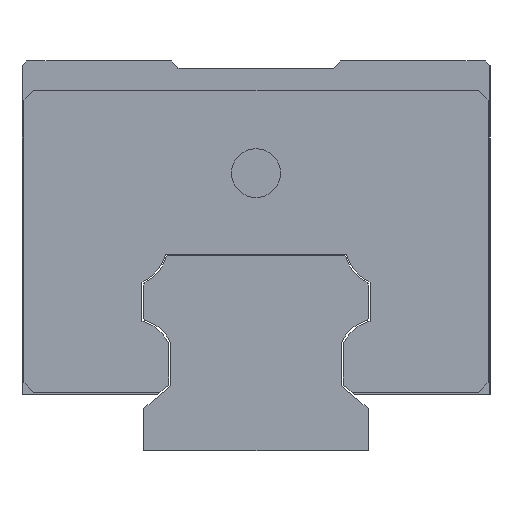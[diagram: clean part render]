
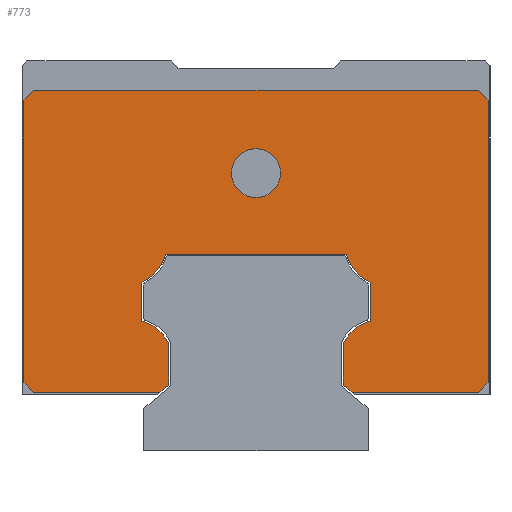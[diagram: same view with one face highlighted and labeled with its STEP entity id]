
A CAD part, left-side view. The second image highlights one B-rep face of the part: STEP entity #773.
In plain terms, the highlighted planar face has unit normal (-1, 0, 0).
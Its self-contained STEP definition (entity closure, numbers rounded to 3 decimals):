
#588=FACE_BOUND('',#1059,.T.);
#589=FACE_BOUND('',#1060,.T.);
#773=ADVANCED_FACE('',(#588,#589),#899,.F.);
#899=PLANE('',#2773);
#1059=EDGE_LOOP('',(#1426));
#1060=EDGE_LOOP('',(#1427,#1428,#1429,#1430,#1431,#1432,#1433,#1434,#1435,
#1436,#1437,#1438,#1439,#1440,#1441,#1442,#1443,#1444,#1445,#1446));
#1240=CIRCLE('',#2757,4.169);
#1241=CIRCLE('',#2760,4.169);
#1242=CIRCLE('',#2763,4.169);
#1243=CIRCLE('',#2766,4.169);
#1244=CIRCLE('',#2772,2.5);
#1426=ORIENTED_EDGE('',*,*,#2175,.F.);
#1427=ORIENTED_EDGE('',*,*,#2173,.F.);
#1428=ORIENTED_EDGE('',*,*,#2176,.T.);
#1429=ORIENTED_EDGE('',*,*,#2168,.F.);
#1430=ORIENTED_EDGE('',*,*,#2167,.F.);
#1431=ORIENTED_EDGE('',*,*,#2160,.F.);
#1432=ORIENTED_EDGE('',*,*,#2154,.F.);
#1433=ORIENTED_EDGE('',*,*,#2153,.F.);
#1434=ORIENTED_EDGE('',*,*,#2145,.F.);
#1435=ORIENTED_EDGE('',*,*,#2144,.F.);
#1436=ORIENTED_EDGE('',*,*,#2136,.F.);
#1437=ORIENTED_EDGE('',*,*,#2135,.F.);
#1438=ORIENTED_EDGE('',*,*,#2127,.F.);
#1439=ORIENTED_EDGE('',*,*,#2125,.F.);
#1440=ORIENTED_EDGE('',*,*,#2120,.F.);
#1441=ORIENTED_EDGE('',*,*,#2112,.F.);
#1442=ORIENTED_EDGE('',*,*,#2177,.T.);
#1443=ORIENTED_EDGE('',*,*,#2108,.F.);
#1444=ORIENTED_EDGE('',*,*,#2178,.T.);
#1445=ORIENTED_EDGE('',*,*,#2104,.F.);
#1446=ORIENTED_EDGE('',*,*,#2179,.T.);
#1900=VERTEX_POINT('',#3629);
#1901=VERTEX_POINT('',#3631);
#1904=VERTEX_POINT('',#3638);
#1905=VERTEX_POINT('',#3640);
#1908=VERTEX_POINT('',#3647);
#1909=VERTEX_POINT('',#3649);
#1910=VERTEX_POINT('',#3653);
#1916=VERTEX_POINT('',#3667);
#1921=VERTEX_POINT('',#3679);
#1922=VERTEX_POINT('',#3683);
#1927=VERTEX_POINT('',#3696);
#1928=VERTEX_POINT('',#3700);
#1933=VERTEX_POINT('',#3713);
#1934=VERTEX_POINT('',#3717);
#1939=VERTEX_POINT('',#3730);
#1940=VERTEX_POINT('',#3734);
#1944=VERTEX_POINT('',#3744);
#1950=VERTEX_POINT('',#3758);
#1954=VERTEX_POINT('',#3767);
#1955=VERTEX_POINT('',#3769);
#1956=VERTEX_POINT('',#3773);
#2104=EDGE_CURVE('',#1900,#1901,#2381,.T.);
#2108=EDGE_CURVE('',#1904,#1905,#2385,.T.);
#2112=EDGE_CURVE('',#1908,#1909,#2389,.T.);
#2120=EDGE_CURVE('',#1909,#1910,#2397,.T.);
#2125=EDGE_CURVE('',#1910,#1916,#2402,.T.);
#2127=EDGE_CURVE('',#1916,#1921,#1240,.T.);
#2135=EDGE_CURVE('',#1921,#1922,#2410,.T.);
#2136=EDGE_CURVE('',#1922,#1927,#1241,.T.);
#2144=EDGE_CURVE('',#1927,#1928,#2418,.T.);
#2145=EDGE_CURVE('',#1928,#1933,#1242,.T.);
#2153=EDGE_CURVE('',#1933,#1934,#2426,.T.);
#2154=EDGE_CURVE('',#1934,#1939,#1243,.T.);
#2160=EDGE_CURVE('',#1939,#1940,#2432,.T.);
#2167=EDGE_CURVE('',#1940,#1944,#2439,.T.);
#2168=EDGE_CURVE('',#1944,#1950,#2440,.T.);
#2173=EDGE_CURVE('',#1954,#1955,#2445,.T.);
#2175=EDGE_CURVE('',#1956,#1956,#1244,.T.);
#2176=EDGE_CURVE('',#1954,#1950,#2447,.T.);
#2177=EDGE_CURVE('',#1908,#1905,#2448,.T.);
#2178=EDGE_CURVE('',#1904,#1901,#2449,.T.);
#2179=EDGE_CURVE('',#1900,#1955,#2450,.T.);
#2381=LINE('',#3630,#2565);
#2385=LINE('',#3639,#2569);
#2389=LINE('',#3648,#2573);
#2397=LINE('',#3664,#2581);
#2402=LINE('',#3674,#2586);
#2410=LINE('',#3693,#2594);
#2418=LINE('',#3710,#2602);
#2426=LINE('',#3727,#2610);
#2432=LINE('',#3741,#2616);
#2439=LINE('',#3755,#2623);
#2440=LINE('',#3757,#2624);
#2445=LINE('',#3768,#2629);
#2447=LINE('',#3774,#2631);
#2448=LINE('',#3775,#2632);
#2449=LINE('',#3776,#2633);
#2450=LINE('',#3777,#2634);
#2565=VECTOR('',#2990,1.);
#2569=VECTOR('',#2996,1.);
#2573=VECTOR('',#3002,1.);
#2581=VECTOR('',#3012,1.);
#2586=VECTOR('',#3019,1.);
#2594=VECTOR('',#3035,1.);
#2602=VECTOR('',#3049,1.);
#2610=VECTOR('',#3063,1.);
#2616=VECTOR('',#3075,1.);
#2623=VECTOR('',#3084,1.);
#2624=VECTOR('',#3087,1.);
#2629=VECTOR('',#3094,1.);
#2631=VECTOR('',#3100,1.);
#2632=VECTOR('',#3101,1.);
#2633=VECTOR('',#3102,1.);
#2634=VECTOR('',#3103,1.);
#2757=AXIS2_PLACEMENT_3D('',#3678,#3024,#3025);
#2760=AXIS2_PLACEMENT_3D('',#3695,#3038,#3039);
#2763=AXIS2_PLACEMENT_3D('',#3712,#3052,#3053);
#2766=AXIS2_PLACEMENT_3D('',#3729,#3066,#3067);
#2772=AXIS2_PLACEMENT_3D('',#3772,#3098,#3099);
#2773=AXIS2_PLACEMENT_3D('',#3778,#3104,#3105);
#2990=DIRECTION('',(0.,-1.,0.));
#2996=DIRECTION('',(0.,0.,-1.));
#3002=DIRECTION('',(0.,1.,0.));
#3012=DIRECTION('',(0.,0.766,0.643));
#3019=DIRECTION('',(0.,0.,1.));
#3024=DIRECTION('',(1.,0.,0.));
#3025=DIRECTION('',(0.,1.,0.));
#3035=DIRECTION('',(0.,0.,1.));
#3038=DIRECTION('',(1.,0.,0.));
#3039=DIRECTION('',(0.,1.,0.));
#3049=DIRECTION('',(0.,1.,0.));
#3052=DIRECTION('',(1.,0.,0.));
#3053=DIRECTION('',(0.,-1.,0.));
#3063=DIRECTION('',(0.,0.,-1.));
#3066=DIRECTION('',(1.,0.,0.));
#3067=DIRECTION('',(0.,-1.,0.));
#3075=DIRECTION('',(0.,0.,-1.));
#3084=DIRECTION('',(0.,0.766,-0.643));
#3087=DIRECTION('',(0.,1.,0.));
#3094=DIRECTION('',(0.,0.,1.));
#3098=DIRECTION('',(-1.,0.,0.));
#3099=DIRECTION('',(0.,1.,0.));
#3100=DIRECTION('',(0.,-0.707,-0.707));
#3101=DIRECTION('',(0.,-0.707,0.707));
#3102=DIRECTION('',(0.,0.707,0.707));
#3103=DIRECTION('',(0.,0.707,-0.707));
#3104=DIRECTION('',(1.,0.,0.));
#3105=DIRECTION('',(0.,0.,-1.));
#3629=CARTESIAN_POINT('',(-55.,22.8,37.));
#3630=CARTESIAN_POINT('',(-55.,23.8,37.));
#3631=CARTESIAN_POINT('',(-55.,-22.8,37.));
#3638=CARTESIAN_POINT('',(-55.,-23.8,36.));
#3639=CARTESIAN_POINT('',(-55.,-23.8,37.));
#3640=CARTESIAN_POINT('',(-55.,-23.8,7.));
#3647=CARTESIAN_POINT('',(-55.,-22.8,6.));
#3648=CARTESIAN_POINT('',(-55.,-23.8,6.));
#3649=CARTESIAN_POINT('',(-55.,-9.865,6.));
#3653=CARTESIAN_POINT('',(-55.,-8.959,6.76));
#3664=CARTESIAN_POINT('',(-55.,-9.865,6.));
#3667=CARTESIAN_POINT('',(-55.,-8.959,11.018));
#3674=CARTESIAN_POINT('',(-55.,-8.959,6.76));
#3678=CARTESIAN_POINT('',(-55.,-12.75,9.283));
#3679=CARTESIAN_POINT('',(-55.,-11.7,13.318));
#3683=CARTESIAN_POINT('',(-55.,-11.7,17.332));
#3693=CARTESIAN_POINT('',(-55.,-11.7,13.318));
#3695=CARTESIAN_POINT('',(-55.,-13.35,21.16));
#3696=CARTESIAN_POINT('',(-55.,-9.293,20.2));
#3700=CARTESIAN_POINT('',(-55.,9.293,20.2));
#3710=CARTESIAN_POINT('',(-55.,-9.293,20.2));
#3712=CARTESIAN_POINT('',(-55.,13.35,21.16));
#3713=CARTESIAN_POINT('',(-55.,11.7,17.332));
#3717=CARTESIAN_POINT('',(-55.,11.7,13.318));
#3727=CARTESIAN_POINT('',(-55.,11.7,17.332));
#3729=CARTESIAN_POINT('',(-55.,12.75,9.283));
#3730=CARTESIAN_POINT('',(-55.,8.959,11.018));
#3734=CARTESIAN_POINT('',(-55.,8.959,6.76));
#3741=CARTESIAN_POINT('',(-55.,8.959,11.018));
#3744=CARTESIAN_POINT('',(-55.,9.865,6.));
#3755=CARTESIAN_POINT('',(-55.,8.959,6.76));
#3757=CARTESIAN_POINT('',(-55.,9.865,6.));
#3758=CARTESIAN_POINT('',(-55.,22.8,6.));
#3767=CARTESIAN_POINT('',(-55.,23.8,7.));
#3768=CARTESIAN_POINT('',(-55.,23.8,6.));
#3769=CARTESIAN_POINT('',(-55.,23.8,36.));
#3772=CARTESIAN_POINT('',(-55.,0.,28.5));
#3773=CARTESIAN_POINT('',(-55.,2.5,28.5));
#3774=CARTESIAN_POINT('',(-55.,22.8,6.));
#3775=CARTESIAN_POINT('',(-55.,-23.8,7.));
#3776=CARTESIAN_POINT('',(-55.,-22.8,37.));
#3777=CARTESIAN_POINT('',(-55.,23.8,36.));
#3778=CARTESIAN_POINT('',(-55.,-12.75,9.283));
